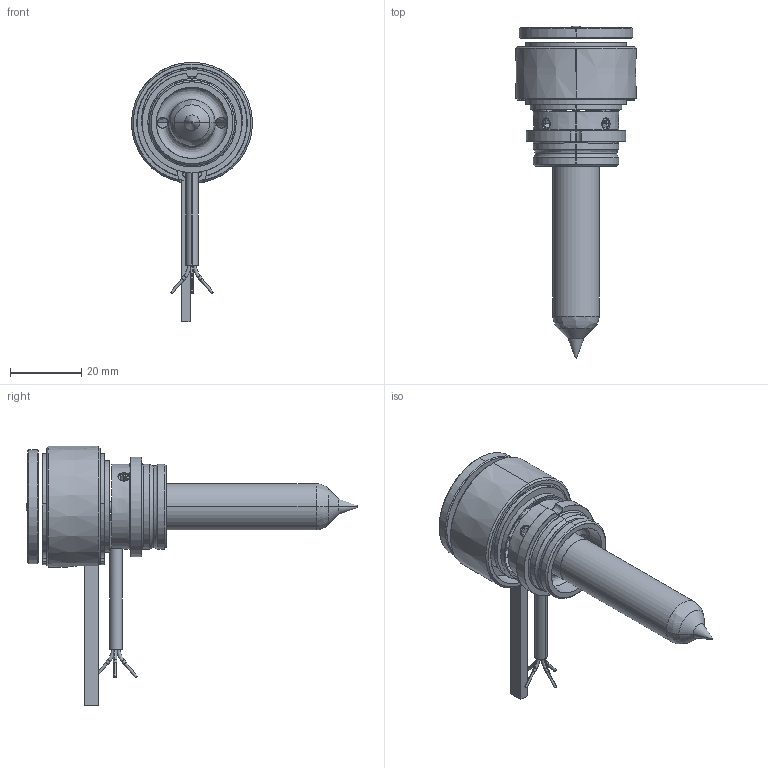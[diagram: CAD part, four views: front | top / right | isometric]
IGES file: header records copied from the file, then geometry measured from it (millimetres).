
Start section: SolidWorks IGES file using analytic representation for surfaces
Global section: file name: C:\Documents and Settings\ws-20\Desktop\TEM\UGGS2530-S-1 [Øf-0.47].IGS; native system: SolidWorks 2012; preprocessor: SolidWorks 2012; author: ws-20; date: 120516.093230; units: millimetre
Bounding box: 34 x 93.3 x 72.9 mm (x, y, z)
Surface area: 16309 mm2 (no closed solid volume)
Topology: 0 solids, 0 shells, 207 faces, 2967 edges, 2961 vertices
Faces by surface type: revolution 129, bspline 78
